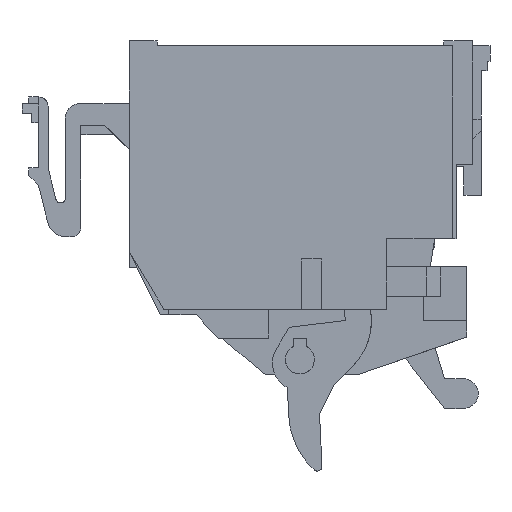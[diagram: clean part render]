
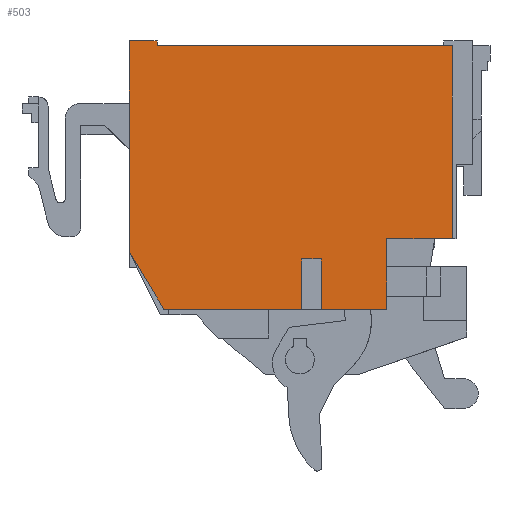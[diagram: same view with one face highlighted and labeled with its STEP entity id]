
A CAD part, front view. The second image highlights one B-rep face of the part: STEP entity #503.
In plain terms, the highlighted planar face has unit normal (0, -1, 0).
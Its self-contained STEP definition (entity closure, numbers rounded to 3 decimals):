
#163=FACE_OUTER_BOUND('',#1230,.T.);
#503=ADVANCED_FACE('',(#163),#853,.T.);
#853=PLANE('',#7344);
#1230=EDGE_LOOP('',(#2015,#2016,#2017,#2018,#2019,#2020,#2021,#2022,#2023,
#2024,#2025,#2026,#2027));
#2015=ORIENTED_EDGE('',*,*,#4686,.F.);
#2016=ORIENTED_EDGE('',*,*,#4687,.F.);
#2017=ORIENTED_EDGE('',*,*,#4608,.F.);
#2018=ORIENTED_EDGE('',*,*,#4405,.T.);
#2019=ORIENTED_EDGE('',*,*,#4674,.T.);
#2020=ORIENTED_EDGE('',*,*,#4618,.T.);
#2021=ORIENTED_EDGE('',*,*,#4688,.F.);
#2022=ORIENTED_EDGE('',*,*,#4297,.T.);
#2023=ORIENTED_EDGE('',*,*,#4689,.F.);
#2024=ORIENTED_EDGE('',*,*,#4690,.F.);
#2025=ORIENTED_EDGE('',*,*,#4658,.T.);
#2026=ORIENTED_EDGE('',*,*,#4599,.T.);
#2027=ORIENTED_EDGE('',*,*,#4595,.T.);
#3614=VERTEX_POINT('',#9493);
#3615=VERTEX_POINT('',#9495);
#3715=VERTEX_POINT('',#9714);
#3716=VERTEX_POINT('',#9715);
#3881=VERTEX_POINT('',#10090);
#3882=VERTEX_POINT('',#10092);
#3885=VERTEX_POINT('',#10100);
#3892=VERTEX_POINT('',#10118);
#3900=VERTEX_POINT('',#10137);
#3901=VERTEX_POINT('',#10139);
#3927=VERTEX_POINT('',#10215);
#3945=VERTEX_POINT('',#10269);
#3946=VERTEX_POINT('',#10273);
#4297=EDGE_CURVE('',#3615,#3614,#5329,.T.);
#4405=EDGE_CURVE('',#3715,#3716,#5437,.T.);
#4595=EDGE_CURVE('',#3882,#3881,#5616,.T.);
#4599=EDGE_CURVE('',#3885,#3882,#5620,.T.);
#4608=EDGE_CURVE('',#3715,#3892,#5629,.T.);
#4618=EDGE_CURVE('',#3901,#3900,#5639,.T.);
#4658=EDGE_CURVE('',#3927,#3885,#5678,.T.);
#4674=EDGE_CURVE('',#3716,#3901,#5693,.T.);
#4686=EDGE_CURVE('',#3945,#3881,#5705,.T.);
#4687=EDGE_CURVE('',#3892,#3945,#5706,.T.);
#4688=EDGE_CURVE('',#3615,#3900,#5707,.T.);
#4689=EDGE_CURVE('',#3946,#3614,#5708,.T.);
#4690=EDGE_CURVE('',#3927,#3946,#5709,.T.);
#5329=LINE('',#9494,#6309);
#5437=LINE('',#9713,#6417);
#5616=LINE('',#10091,#6596);
#5620=LINE('',#10099,#6600);
#5629=LINE('',#10117,#6609);
#5639=LINE('',#10138,#6619);
#5678=LINE('',#10214,#6658);
#5693=LINE('',#10244,#6673);
#5705=LINE('',#10268,#6685);
#5706=LINE('',#10270,#6686);
#5707=LINE('',#10271,#6687);
#5708=LINE('',#10272,#6688);
#5709=LINE('',#10274,#6689);
#6309=VECTOR('',#7694,1.);
#6417=VECTOR('',#7824,1.);
#6596=VECTOR('',#8067,1.);
#6600=VECTOR('',#8073,1.);
#6609=VECTOR('',#8086,1.);
#6619=VECTOR('',#8100,1.);
#6658=VECTOR('',#8161,1.);
#6673=VECTOR('',#8180,1.);
#6685=VECTOR('',#8206,1.);
#6686=VECTOR('',#8207,1.);
#6687=VECTOR('',#8208,1.);
#6688=VECTOR('',#8209,1.);
#6689=VECTOR('',#8210,1.);
#7344=AXIS2_PLACEMENT_3D('',#10275,#8211,#8212);
#7694=DIRECTION('',(-1.,0.,0.));
#7824=DIRECTION('',(1.,0.,0.));
#8067=DIRECTION('',(1.,0.,0.));
#8073=DIRECTION('',(0.515,0.,-0.857));
#8086=DIRECTION('',(0.,0.,1.));
#8100=DIRECTION('',(1.,0.,0.));
#8161=DIRECTION('',(0.,0.,-1.));
#8180=DIRECTION('',(0.,0.,1.));
#8206=DIRECTION('',(0.,0.,-1.));
#8207=DIRECTION('',(-1.,0.,0.));
#8208=DIRECTION('',(0.,0.,-1.));
#8209=DIRECTION('',(0.,0.,-1.));
#8210=DIRECTION('',(1.,0.,0.));
#8211=DIRECTION('',(0.,-1.,0.));
#8212=DIRECTION('',(0.,0.,1.));
#9493=CARTESIAN_POINT('',(2.9,-12.85,0.));
#9494=CARTESIAN_POINT('',(37.4,-12.85,0.));
#9495=CARTESIAN_POINT('',(33.5,-12.85,0.));
#9713=CARTESIAN_POINT('',(3.605,-12.85,-27.3));
#9714=CARTESIAN_POINT('',(19.9,-12.85,-27.3));
#9715=CARTESIAN_POINT('',(26.7,-12.85,-27.3));
#10090=CARTESIAN_POINT('',(17.9,-12.85,-27.3));
#10091=CARTESIAN_POINT('',(3.605,-12.85,-27.3));
#10092=CARTESIAN_POINT('',(3.605,-12.85,-27.3));
#10099=CARTESIAN_POINT('',(0.,-12.85,-21.3));
#10100=CARTESIAN_POINT('',(0.,-12.85,-21.3));
#10117=CARTESIAN_POINT('',(19.9,-12.85,-27.3));
#10118=CARTESIAN_POINT('',(19.9,-12.85,-22.1));
#10137=CARTESIAN_POINT('',(33.5,-12.85,-20.));
#10138=CARTESIAN_POINT('',(26.7,-12.85,-20.));
#10139=CARTESIAN_POINT('',(26.7,-12.85,-20.));
#10214=CARTESIAN_POINT('',(0.,-12.85,0.));
#10215=CARTESIAN_POINT('',(0.,-12.85,0.5));
#10244=CARTESIAN_POINT('',(26.7,-12.85,-27.3));
#10268=CARTESIAN_POINT('',(17.9,-12.85,-22.1));
#10269=CARTESIAN_POINT('',(17.9,-12.85,-22.1));
#10270=CARTESIAN_POINT('',(19.9,-12.85,-22.1));
#10271=CARTESIAN_POINT('',(33.5,-12.85,0.));
#10272=CARTESIAN_POINT('',(2.9,-12.85,0.5));
#10273=CARTESIAN_POINT('',(2.9,-12.85,0.5));
#10274=CARTESIAN_POINT('',(0.,-12.85,0.5));
#10275=CARTESIAN_POINT('',(0.,-12.85,0.));
